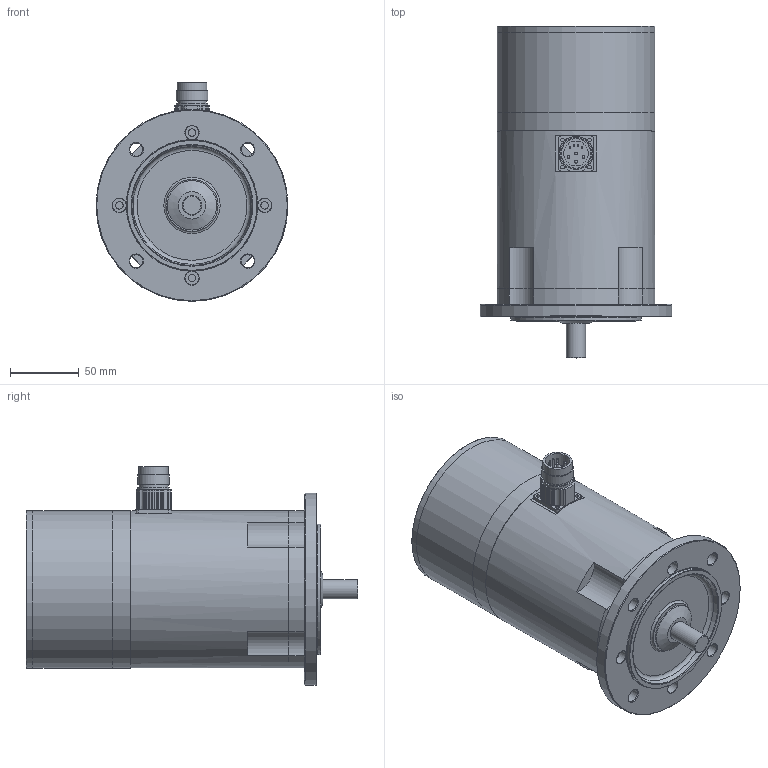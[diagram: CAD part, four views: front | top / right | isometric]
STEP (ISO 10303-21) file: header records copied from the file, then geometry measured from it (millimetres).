
FILE_DESCRIPTION(/* description */ (''),/* implementation_level */ '2;1');
FILE_NAME(/* name */ 'ksa_4x4e_mc',/* time_stamp */ '2007-03-13T14:22:16+01:00',/* author */ (''),/* organization */ (''),/* preprocessor_version */ 'ST-DEVELOPER v8',/* originating_system */ 'UNIGRAPHICS SOLUTIONS - UNIGRAPHICS 18.0',/* authorisation */ '');
FILE_SCHEMA (('AUTOMOTIVE_DESIGN { 1 2 10303 214 0 1 1 1 }'));
Length unit declared in the file: millimetre
Products named in the file (10): 06331201_0; DIN3760_org_A15x30x7_0; 014260_0; 064256_0; 089258_0; 114112_0; Gehaeuse SA 4 E_0; Rotor-SA 4 E_0; 114108_0; KSA444_E-MC_0
Assembly tree (9 placements, depth 2):
  KSA444_E-MC_0
    114108_0
    Rotor-SA 4 E_0
    Gehaeuse SA 4 E_0
    114112_0
    089258_0
    064256_0
    014260_0
    DIN3760_org_A15x30x7_0
    06331201_0
Bounding box: 140 x 242 x 159.5 mm (x, y, z)
Volume: 1071032.2 mm3; surface area: 258017.9 mm2
Topology: 9 solids, 9 shells, 390 faces, 967 edges, 623 vertices
Faces by surface type: cylinder 187, plane 91, cone 78, torus 22, sphere 8, bspline 4
Full cylindrical faces by diameter (mm): 1 x4, 2 x4, 2.7 x4, 3.013 x4, 3.3 x4, 3.432 x8, 4.5 x12, 5.5 x4, 6 x1, 6.5 x4, 8 x12, 9.5 x4, 10 x4, 13.52 x1, 13.9 x1, 14 x1, 15 x2, 15.3 x2, 18 x1, 20 x2, 21 x1, 21.5 x1, 23 x2, 24 x1, 27 x1, 30 x5, 35 x2, 36 x1, 38 x1, 53.5 x1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
Entity records: 10478 total; most frequent: DIRECTION 1918, CARTESIAN_POINT 1875, ORIENTED_EDGE 1304, AXIS2_PLACEMENT_3D 903, EDGE_LOOP 724, EDGE_CURVE 652, VERTEX_POINT 534, CIRCLE 507
